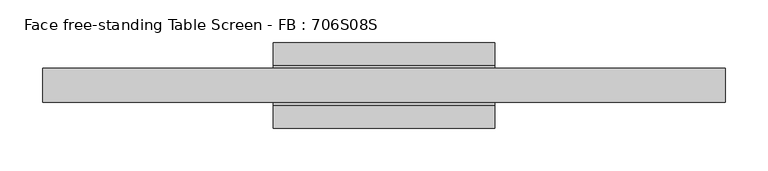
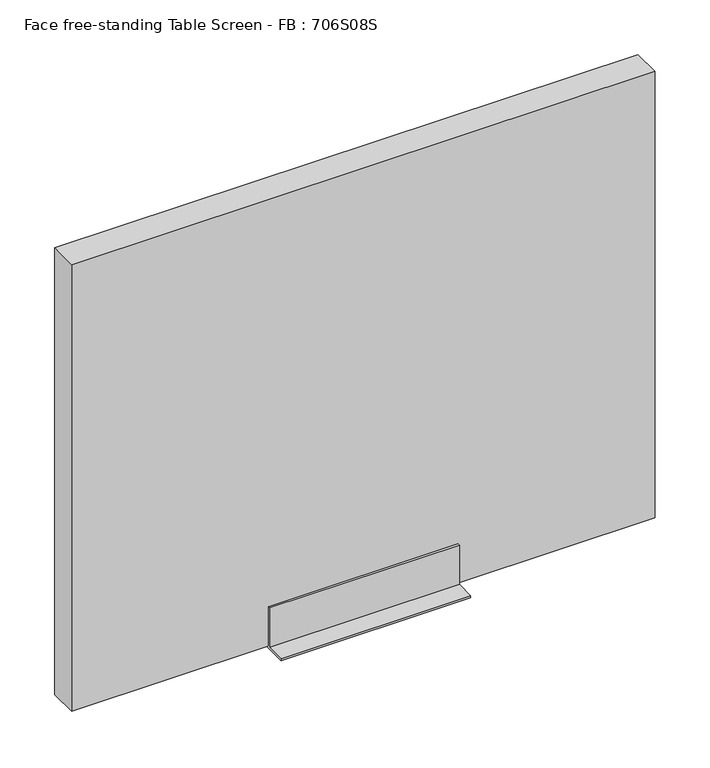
"""IFC4 building model written with IfcOpenShell, lengths in millimetres: furniture geometry, Face free-standing Table Screen - FB : 706S08S."""

from ifc_helpers import new_model, si_unit, frame, origin, place, context, project, spatial, polyline, outline, extrude, source, transform, mapped, element, save


def face_free_standing_table_screen_fb_706s08s_8f1e602d(model_context):
    return source(origin(), model_context, "Body", "SweptSolid", [
        extrude(outline(polyline([(-50.0, 3.0), (-22.999995, 3.0), (-23.0, 60.0), (-20.0, 60.0), (-20.0, 3.0), (20.0, 3.0), (20.0, 60.0), (23.0, 60.0), (22.999995, 3.0), (50.0, 3.0), (50.0, 0.0), (-50.0, 0.0), (-50.0, 3.0)])), frame((-130.0, 0.0, 0.0), z_axis=(1.0, 0.0, 0.0), x_axis=(0.0, 1.0, 0.0)), (0.0, 0.0, 1.0), 260.0),
        extrude(outline(polyline([(400.0, -20.0), (-400.0, -20.0), (-400.0, 20.0), (400.0, 20.0), (400.0, -20.0)])), frame((0.0, 0.0, 3.0), z_axis=(0.0, 0.0, 1.0), x_axis=(1.0, 0.0, 0.0)), (0.0, 0.0, 1.0), 647.0),
    ])


if __name__ == "__main__":
    model = new_model("IFC4")
    model_context = context("Model", 3, world=origin())
    ifc_project = project(units=[si_unit("LENGTHUNIT", "METRE", prefix="MILLI")], contexts=[model_context])
    site = spatial("IfcSite", under=ifc_project)
    building = spatial("IfcBuilding", under=site)
    placement = place(None, origin())
    face_free_standing_table_screen_fb_706s08s_shape = face_free_standing_table_screen_fb_706s08s_8f1e602d(model_context)
    element("IfcFurniture", 1, ObjectType="Face free-standing Table Screen - FB : 706S08S", at=placement, inside=building, context=model_context, shape_type="MappedRepresentation", body=[
        mapped(face_free_standing_table_screen_fb_706s08s_shape, transform((0.0, 0.0, 0.0), x_axis=(1.0, 0.0, 0.0), y_axis=(0.0, 1.0, 0.0), z_axis=(0.0, 0.0, 1.0))),
    ])
    save(model, "model.ifc")
